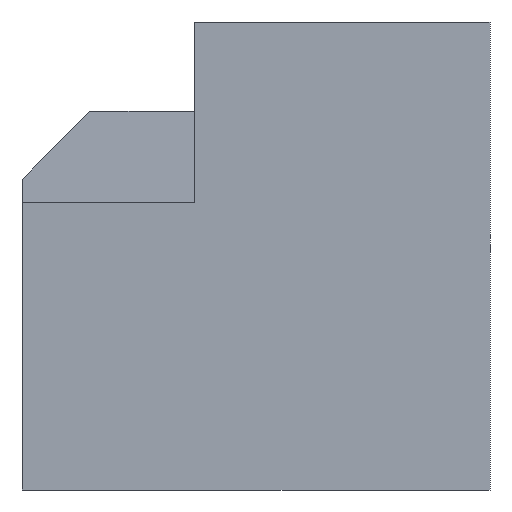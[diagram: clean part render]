
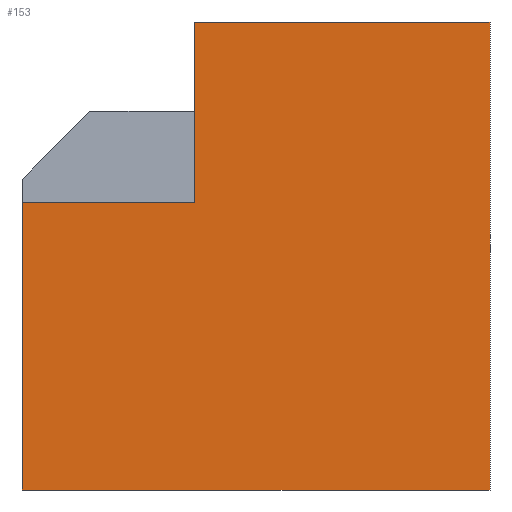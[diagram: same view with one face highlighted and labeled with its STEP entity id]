
A CAD part, front view. The second image highlights one B-rep face of the part: STEP entity #153.
In plain terms, the highlighted planar face has unit normal (0, -1, 0).
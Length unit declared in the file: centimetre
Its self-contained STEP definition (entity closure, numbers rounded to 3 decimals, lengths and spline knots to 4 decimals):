
#10 = VERTEX_POINT ( 'NONE', #105 ) ;
#12 = DIRECTION ( 'NONE',  ( 0., 0., -1. ) ) ;
#27 = CARTESIAN_POINT ( 'NONE',  ( 1000., 0., 1000. ) ) ;
#37 = VECTOR ( 'NONE', #123, 100. ) ;
#61 = LINE ( 'NONE', #521, #231 ) ;
#64 = ORIENTED_EDGE ( 'NONE', *, *, #630, .T. ) ;
#75 = DIRECTION ( 'NONE',  ( 1., 0., 0. ) ) ;
#77 = ORIENTED_EDGE ( 'NONE', *, *, #84, .F. ) ;
#84 = EDGE_CURVE ( 'NONE', #169, #177, #61, .T. ) ;
#89 = ORIENTED_EDGE ( 'NONE', *, *, #612, .F. ) ;
#96 = LINE ( 'NONE', #494, #472 ) ;
#98 = CARTESIAN_POINT ( 'NONE',  ( 368.6952, 0., 615.0847 ) ) ;
#103 = LINE ( 'NONE', #503, #539 ) ;
#105 = CARTESIAN_POINT ( 'NONE',  ( 0., 0., 615.0847 ) ) ;
#111 = VECTOR ( 'NONE', #243, 100. ) ;
#117 = LINE ( 'NONE', #170, #37 ) ;
#123 = DIRECTION ( 'NONE',  ( 0., 0., 1. ) ) ;
#135 = EDGE_CURVE ( 'NONE', #10, #184, #300, .T. ) ;
#153 = ADVANCED_FACE ( 'NONE', ( #156 ), #560, .F. ) ;
#155 = CARTESIAN_POINT ( 'NONE',  ( 368.6952, 0., 615.0847 ) ) ;
#156 = FACE_OUTER_BOUND ( 'NONE', #378, .T. ) ;
#169 = VERTEX_POINT ( 'NONE', #175 ) ;
#170 = CARTESIAN_POINT ( 'NONE',  ( 368.6952, 0., 615.0847 ) ) ;
#175 = CARTESIAN_POINT ( 'NONE',  ( 368.6952, 0., 1000. ) ) ;
#177 = VERTEX_POINT ( 'NONE', #27 ) ;
#184 = VERTEX_POINT ( 'NONE', #322 ) ;
#187 = EDGE_CURVE ( 'NONE', #273, #169, #117, .T. ) ;
#230 = ORIENTED_EDGE ( 'NONE', *, *, #644, .T. ) ;
#231 = VECTOR ( 'NONE', #75, 100. ) ;
#243 = DIRECTION ( 'NONE',  ( -1., 0., 0. ) ) ;
#252 = CARTESIAN_POINT ( 'NONE',  ( 0., 0., 1000. ) ) ;
#273 = VERTEX_POINT ( 'NONE', #155 ) ;
#293 = DIRECTION ( 'NONE',  ( 1., 0., 0. ) ) ;
#300 = LINE ( 'NONE', #252, #446 ) ;
#316 = ORIENTED_EDGE ( 'NONE', *, *, #135, .T. ) ;
#322 = CARTESIAN_POINT ( 'NONE',  ( 0., 0., 0. ) ) ;
#343 = DIRECTION ( 'NONE',  ( 0., 0., -1. ) ) ;
#378 = EDGE_LOOP ( 'NONE', ( #397, #64, #316, #230, #89, #77 ) ) ;
#389 = LINE ( 'NONE', #98, #111 ) ;
#397 = ORIENTED_EDGE ( 'NONE', *, *, #187, .F. ) ;
#423 = DIRECTION ( 'NONE',  ( 0., 1., 0. ) ) ;
#446 = VECTOR ( 'NONE', #12, 100. ) ;
#472 = VECTOR ( 'NONE', #293, 100. ) ;
#494 = CARTESIAN_POINT ( 'NONE',  ( 0., 0., 0. ) ) ;
#503 = CARTESIAN_POINT ( 'NONE',  ( 1000., 0., 1000. ) ) ;
#504 = VERTEX_POINT ( 'NONE', #512 ) ;
#506 = CARTESIAN_POINT ( 'NONE',  ( 0., 0., 1000. ) ) ;
#512 = CARTESIAN_POINT ( 'NONE',  ( 1000., 0., 0. ) ) ;
#521 = CARTESIAN_POINT ( 'NONE',  ( 0., 0., 1000. ) ) ;
#539 = VECTOR ( 'NONE', #343, 100. ) ;
#560 = PLANE ( 'NONE',  #638 ) ;
#612 = EDGE_CURVE ( 'NONE', #177, #504, #103, .T. ) ;
#617 = DIRECTION ( 'NONE',  ( 0., 0., 1. ) ) ;
#630 = EDGE_CURVE ( 'NONE', #273, #10, #389, .T. ) ;
#638 = AXIS2_PLACEMENT_3D ( 'NONE', #506, #423, #617 ) ;
#644 = EDGE_CURVE ( 'NONE', #184, #504, #96, .T. ) ;
